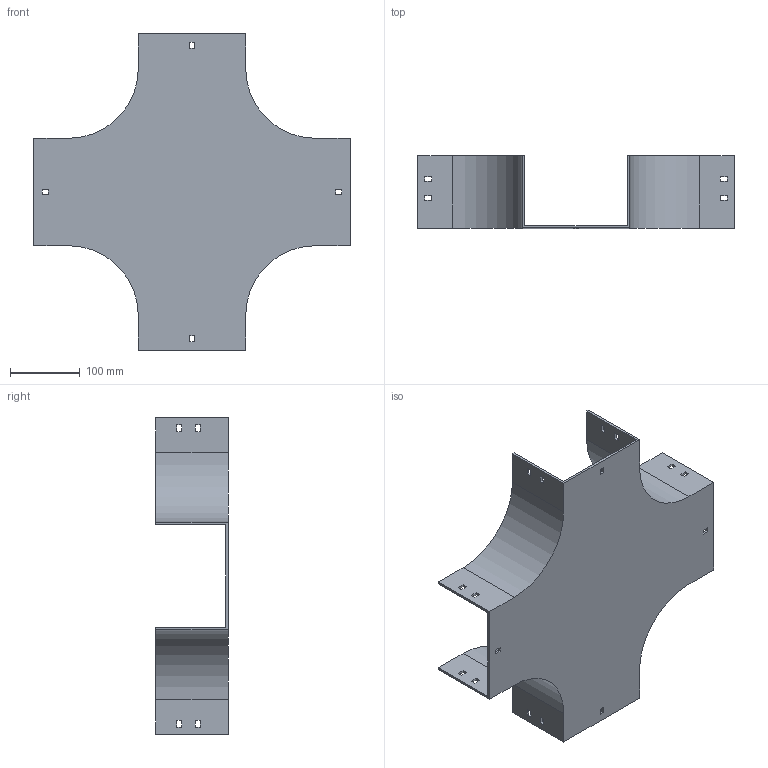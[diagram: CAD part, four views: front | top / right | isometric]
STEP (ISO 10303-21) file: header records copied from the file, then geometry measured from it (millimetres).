
FILE_DESCRIPTION (( 'STEP AP214' ), '1' );
FILE_NAME ('17B1D150.step', '2025-02-21T09:56:08', ( '' ), ( '' ), 'SwSTEP 2.0', 'SolidWorks 2023', '' );
FILE_SCHEMA (( 'AUTOMOTIVE_DESIGN' ));
Length unit declared in the file: millimetre
Products named in the file (1): 17B1D150
Bounding box: 454 x 104 x 454 mm (x, y, z)
Volume: 797290 mm3; surface area: 466501.4 mm2
Topology: 1 solids, 1 shells, 114 faces, 336 edges, 224 vertices
Faces by surface type: plane 106, cylinder 8
Entity records: 3839 total; most frequent: CARTESIAN_POINT 675, ORIENTED_EDGE 672, DIRECTION 582, EDGE_CURVE 336, LINE 320, VECTOR 320, VERTEX_POINT 224, EDGE_LOOP 154
